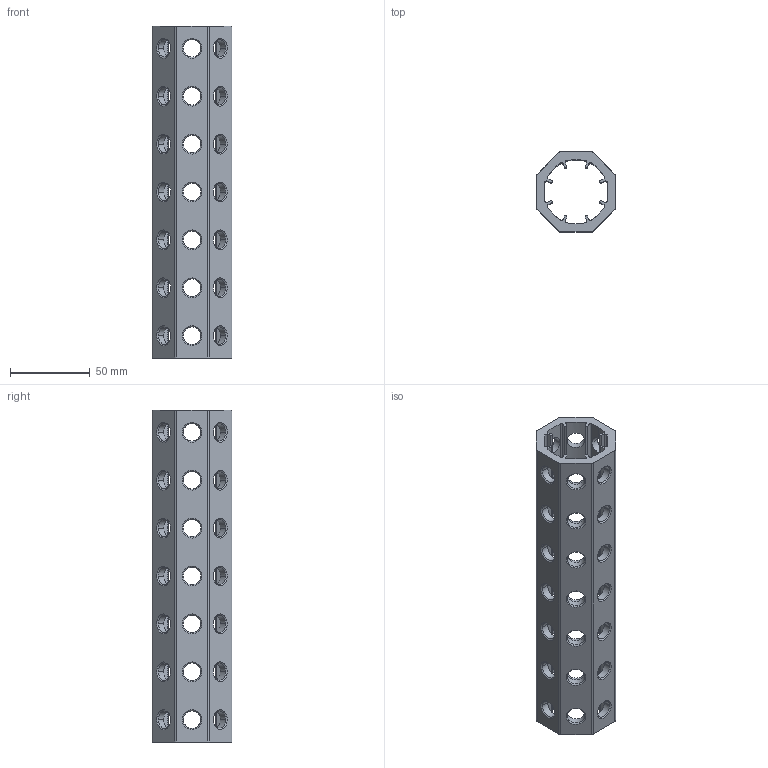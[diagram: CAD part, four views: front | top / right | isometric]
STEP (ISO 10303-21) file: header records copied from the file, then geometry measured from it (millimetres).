
FILE_DESCRIPTION(('CATIA V5 STEP Exchange'),'2;1');
FILE_NAME('U:\Room\唐宝山\EGT002\46-01-010236-01-EGT002-208.stp','2021-08-24T00:57:10+00:00',('none'),('none'),'CATIA Version 5 Release 21 GA (IN-10)','CATIA V5 STEP AP203','none');
FILE_SCHEMA(('CONFIG_CONTROL_DESIGN'));
Length unit declared in the file: millimetre
Products named in the file (1): 46-01-010236-01-EGT002-208
Bounding box: 50 x 50 x 208 mm (x, y, z)
Volume: 147964.3 mm3; surface area: 72950 mm2
Topology: 1 solids, 1 shells, 364 faces, 1016 edges, 640 vertices
Faces by surface type: cylinder 170, cone 168, plane 26
Entity records: 14572 total; most frequent: CARTESIAN_POINT 5617, ORIENTED_EDGE 2032, DIRECTION 1455, EDGE_CURVE 1016, AXIS2_PLACEMENT_3D 668, VERTEX_POINT 640, EDGE_LOOP 464, VECTOR 424
